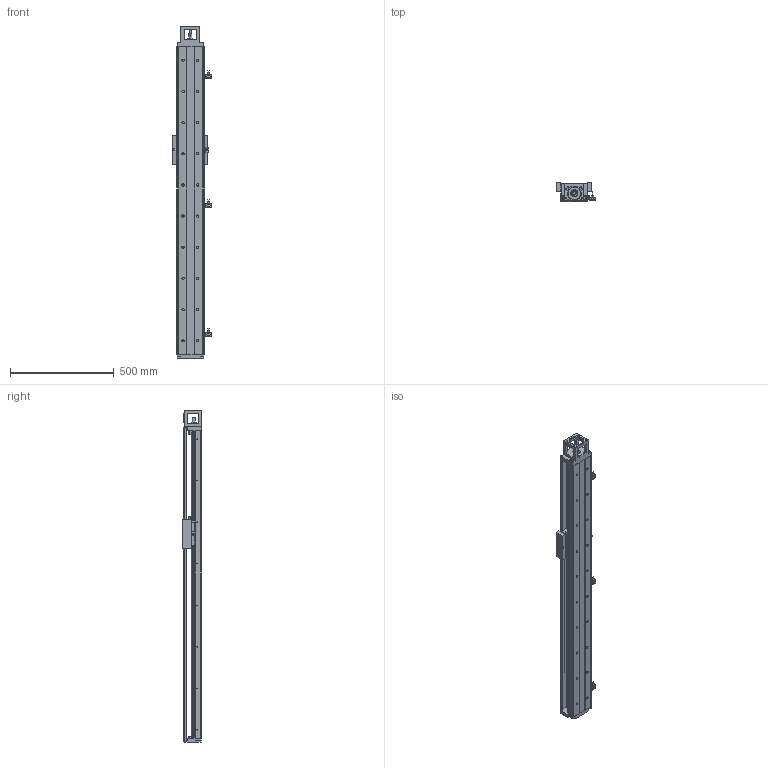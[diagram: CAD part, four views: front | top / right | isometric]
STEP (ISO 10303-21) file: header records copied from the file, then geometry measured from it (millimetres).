
FILE_DESCRIPTION((''),'2;1');
FILE_NAME('TKK130-1480A1F0C_ASM','2022-01-27T',('Administrator'),(''),'PRO/ENGINEER BY PARAMETRIC TECHNOLOGY CORPORATION, 2010280','PRO/ENGINEER BY PARAMETRIC TECHNOLOGY CORPORATION, 2010280','');
FILE_SCHEMA(('CONFIG_CONTROL_DESIGN'));
Length unit declared in the file: millimetre
Products named in the file (8): PRT0001; PRT0002; ASM0002_ASM; TKK130-1480-05; TKK130-15; TKK130-EE-SX671; TKK130-14; TKK130-1480A1F0C_ASM
Assembly tree (11 placements, depth 3):
  TKK130-1480A1F0C_ASM
    ASM0002_ASM
      PRT0001
      PRT0002
    TKK130-1480-05
    TKK130-15  x3
    TKK130-EE-SX671  x3
    TKK130-14
Bounding box: 186 x 92 x 1598 mm (x, y, z)
Volume: 6990197.3 mm3; surface area: 1551973.2 mm2
Topology: 10 solids, 69 shells, 1944 faces, 5210 edges, 3247 vertices
Faces by surface type: plane 867, cylinder 743, cone 294, extrusion 33, bspline 6, torus 1
Entity records: 56732 total; most frequent: CARTESIAN_POINT 11510, DIRECTION 9612, ORIENTED_EDGE 9192, EDGE_CURVE 4608, AXIS2_PLACEMENT_3D 3425, VERTEX_POINT 2987, VECTOR 2762, LINE 2729
